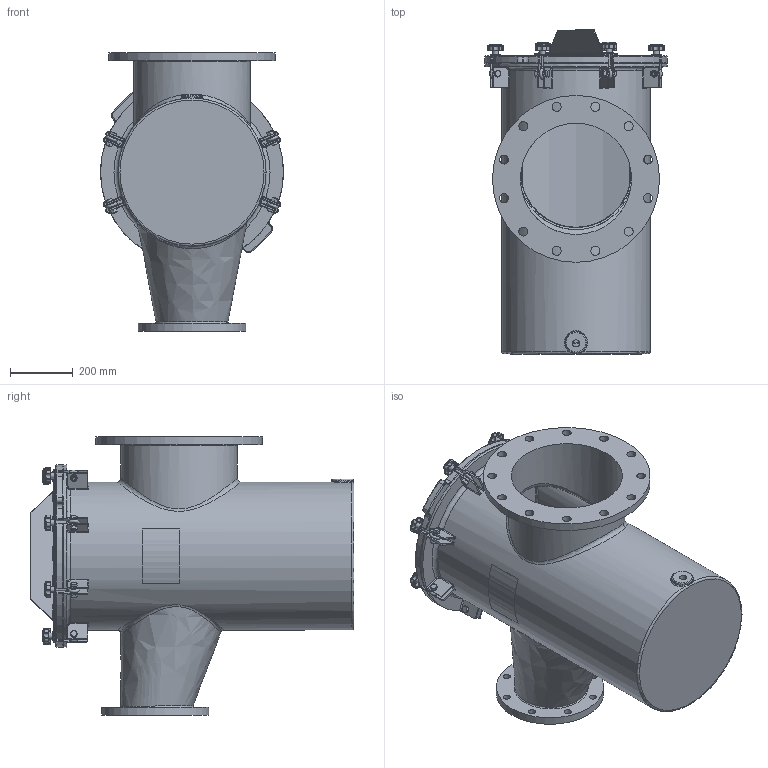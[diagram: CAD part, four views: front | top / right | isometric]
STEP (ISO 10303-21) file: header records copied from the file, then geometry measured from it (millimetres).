
FILE_DESCRIPTION(/* description */ ('STRAINER BODY'),/* implementation_level */ '2;1');
FILE_NAME(/* name */ 'Z:\Output\Strainers\11-14-2016\CAD\150NBFG48ER1.stp',/* time_stamp */ '2016-11-16T20:14:37+06:00',/* author */ ('20093558'),/* organization */ (''),/* preprocessor_version */ 'ST-DEVELOPER v16.1',/* originating_system */ 'Autodesk Inventor 2016',/* authorisation */ '');
FILE_SCHEMA (('AUTOMOTIVE_DESIGN { 1 0 10303 214 3 1 1 }'));
Length unit declared in the file: inch
Products named in the file (24): NBFG48EBODYR1; 150NBCVR18R2; 150NBGSK18R1; Perforated Basket 18in; Bride (Ring) 18in; Baffle 18in; Handle 18in; Bottom Strainer 18in; NBBSK14T316; BRACESTRCVR18_Welds; BRACE (BASE) FOR 18 BODY; BRACE (PROJ) FOR 18 BODY; Bumper; BRACESTRCVR18; Nut- 1_2  UNC; Bolt-1_2 x 1 1_2  UNC; EyeBolt; Washer; Knob M10; Securing Assembly For FG  with Brace; Securing Assembly For FG without Brace; Label for 18.625 inch (Right); Label for 18.625 inch (Left); Guardian FG Reducing H&L Strainer (Inch)
Assembly tree (39 placements, depth 3):
  Guardian FG Reducing H&L Strainer (Inch)
    NBFG48EBODYR1
    150NBCVR18R2
    150NBGSK18R1
    NBBSK14T316
      Perforated Basket 18in
      Bride (Ring) 18in
      Baffle 18in
      Handle 18in
      Bottom Strainer 18in
    BRACESTRCVR18
      BRACESTRCVR18_Welds
      BRACE (BASE) FOR 18 BODY
      BRACE (PROJ) FOR 18 BODY
      Bumper  x6
    Securing Assembly For FG  with Brace  x2
      Nut- 1_2  UNC
      Bolt-1_2 x 1 1_2  UNC
      EyeBolt
      Washer
      Knob M10
    Securing Assembly For FG without Brace  x6
      Nut- 1_2  UNC
      Bolt-1_2 x 1 1_2  UNC
      EyeBolt
      Washer
      Knob M10
    Label for 18.625 inch (Right)
    Label for 18.625 inch (Left)
Bounding box: 584.2 x 1035.05 x 889 mm (x, y, z)
Volume: 29399761.6 mm3; surface area: 7429598.4 mm2
Topology: 67 solids, 67 shells, 1827 faces, 4172 edges, 2468 vertices
Faces by surface type: cylinder 668, plane 511, cone 184, torus 168, sphere 158, bspline 138
Full cylindrical faces by diameter (mm): 3.175 x11, 6.35 x2, 8.382 x8, 9.525 x16, 10.592 x8, 12.7 x8, 15.875 x16, 19 x16, 19.05 x8, 22.225 x8, 22.809 x1, 28.575 x12, 31.75 x8, 68.263 x1, 342.9 x1, 352.425 x2, 355.6 x2, 358.14 x1, 371.475 x1, 457.2 x3, 463.55 x1, 473.075 x1, 520.7 x1, 527.05 x1, 533.4 x1
Entity records: 35091 total; most frequent: CARTESIAN_POINT 11766, DIRECTION 4814, ORIENTED_EDGE 4418, EDGE_CURVE 2209, AXIS2_PLACEMENT_3D 1967, VERTEX_POINT 1385, EDGE_LOOP 1190, ADVANCED_FACE 977
